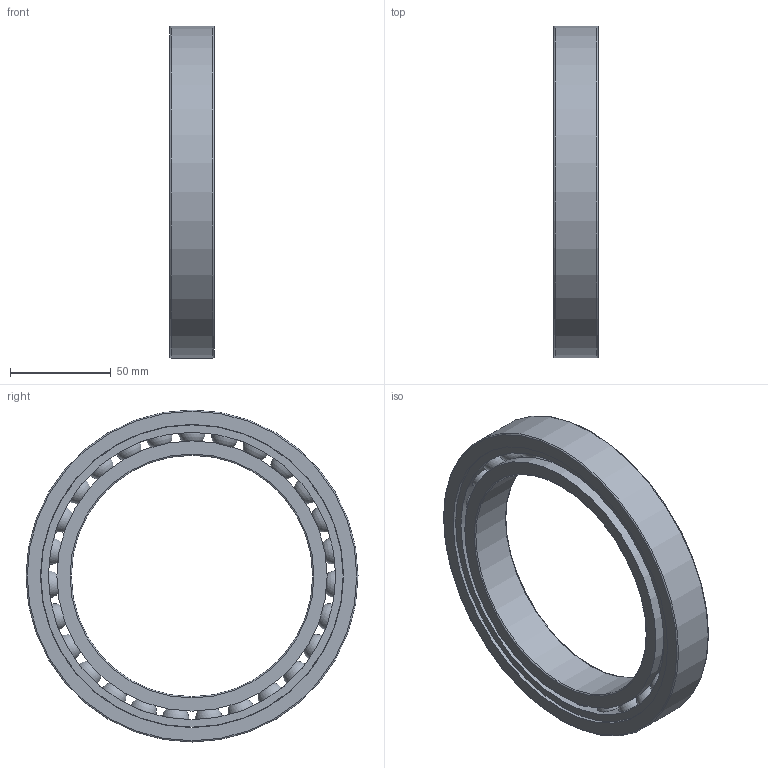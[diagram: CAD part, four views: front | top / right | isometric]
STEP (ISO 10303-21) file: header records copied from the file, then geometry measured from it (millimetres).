
FILE_DESCRIPTION(/* description */ (''),/* implementation_level */ '2;1');
FILE_NAME(/* name */ 'S_61924_TA.step',/* time_stamp */ '2013-03-06T14:48:55+01:00',/* author */ ('Marian'),/* organization */ ('GMN'),/* preprocessor_version */ 'ST-DEVELOPER v11',/* originating_system */ 'SIEMENS UGS NX 6.0',/* authorisation */ '');
FILE_SCHEMA (('CONFIG_CONTROL_DESIGN'));
Length unit declared in the file: millimetre
Products named in the file (1): S_61924_TA
Bounding box: 22 x 165 x 165 mm (x, y, z)
Volume: 166128.8 mm3; surface area: 84451.4 mm2
Topology: 30 solids, 30 shells, 74 faces, 196 edges, 128 vertices
Faces by surface type: cylinder 34, sphere 27, torus 6, plane 6, cone 1
Full cylindrical faces by diameter (mm): 13.694 x27, 120 x1, 134.3 x2, 142.774 x1, 150.25 x1, 150.65 x1, 165 x1
Entity records: 2496 total; most frequent: CARTESIAN_POINT 1168, DIRECTION 190, FACE_BOUND 175, EDGE_LOOP 148, ORIENTED_EDGE 148, VERTEX_POINT 101, AXIS2_PLACEMENT_3D 95, EDGE_CURVE 74
